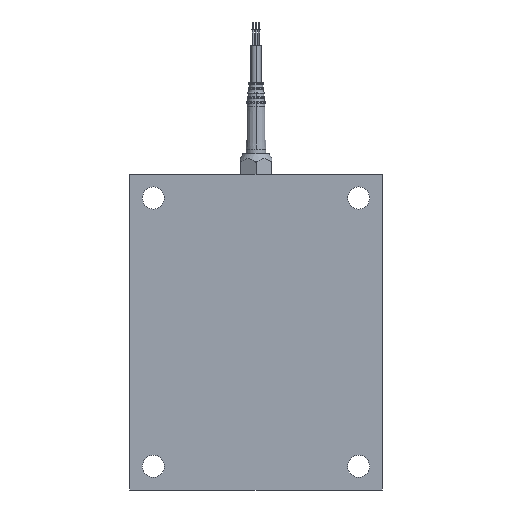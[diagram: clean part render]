
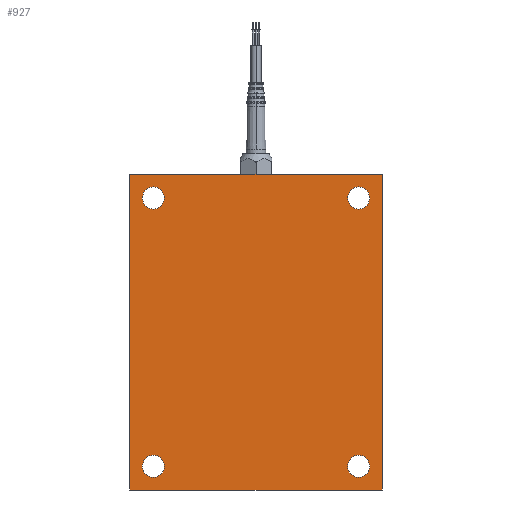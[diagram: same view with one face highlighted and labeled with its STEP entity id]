
A CAD part, front view. The second image highlights one B-rep face of the part: STEP entity #927.
In plain terms, the highlighted planar face has unit normal (0, -1, 0).
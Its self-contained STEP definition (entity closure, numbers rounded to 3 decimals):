
#55 = EDGE_CURVE ( 'NONE', #8232, #11039, #2668, .T. ) ;
#159 = ORIENTED_EDGE ( 'NONE', *, *, #9657, .T. ) ;
#221 = FACE_BOUND ( 'NONE', #9860, .T. ) ;
#266 = AXIS2_PLACEMENT_3D ( 'NONE', #4777, #8554, #3755 ) ;
#305 = AXIS2_PLACEMENT_3D ( 'NONE', #4443, #9071, #8200 ) ;
#764 = DIRECTION ( 'NONE',  ( 0., 1., 0. ) ) ;
#927 = ADVANCED_FACE ( 'NONE', ( #221, #3869, #6623, #3111, #11350 ), #8537, .T. ) ;
#1111 = VECTOR ( 'NONE', #8660, 1000. ) ;
#1147 = CIRCLE ( 'NONE', #8027, 7. ) ;
#1205 = DIRECTION ( 'NONE',  ( 0., 0., 1. ) ) ;
#1404 = VERTEX_POINT ( 'NONE', #11454 ) ;
#1621 = CIRCLE ( 'NONE', #9508, 7. ) ;
#1745 = DIRECTION ( 'NONE',  ( 0., 0., 1. ) ) ;
#1806 = AXIS2_PLACEMENT_3D ( 'NONE', #2016, #11424, #6003 ) ;
#1829 = CIRCLE ( 'NONE', #266, 7. ) ;
#1930 = ORIENTED_EDGE ( 'NONE', *, *, #8910, .F. ) ;
#1945 = DIRECTION ( 'NONE',  ( 0., 0., -1. ) ) ;
#1972 = CARTESIAN_POINT ( 'NONE',  ( -85., 0., -72. ) ) ;
#2016 = CARTESIAN_POINT ( 'NONE',  ( 85., 0., 65. ) ) ;
#2017 = CIRCLE ( 'NONE', #8098, 7. ) ;
#2086 = DIRECTION ( 'NONE',  ( 0., 0., 1. ) ) ;
#2130 = LINE ( 'NONE', #5741, #1111 ) ;
#2198 = DIRECTION ( 'NONE',  ( 0., 1., 0. ) ) ;
#2382 = EDGE_CURVE ( 'NONE', #2926, #6661, #3059, .T. ) ;
#2392 = CARTESIAN_POINT ( 'NONE',  ( 100., 0., 80. ) ) ;
#2559 = ORIENTED_EDGE ( 'NONE', *, *, #5392, .T. ) ;
#2636 = LINE ( 'NONE', #6392, #8180 ) ;
#2668 = CIRCLE ( 'NONE', #2705, 7. ) ;
#2705 = AXIS2_PLACEMENT_3D ( 'NONE', #10609, #4036, #7542 ) ;
#2869 = CARTESIAN_POINT ( 'NONE',  ( 85., 0., -58. ) ) ;
#2888 = EDGE_CURVE ( 'NONE', #6661, #2926, #2017, .T. ) ;
#2926 = VERTEX_POINT ( 'NONE', #1972 ) ;
#2939 = VERTEX_POINT ( 'NONE', #6706 ) ;
#3059 = CIRCLE ( 'NONE', #305, 7. ) ;
#3111 = FACE_BOUND ( 'NONE', #6978, .T. ) ;
#3195 = VERTEX_POINT ( 'NONE', #10082 ) ;
#3227 = AXIS2_PLACEMENT_3D ( 'NONE', #9589, #10378, #1945 ) ;
#3477 = CARTESIAN_POINT ( 'NONE',  ( -85., 0., 65. ) ) ;
#3521 = ORIENTED_EDGE ( 'NONE', *, *, #9042, .F. ) ;
#3755 = DIRECTION ( 'NONE',  ( 0., 0., 1. ) ) ;
#3841 = EDGE_LOOP ( 'NONE', ( #159, #5229 ) ) ;
#3869 = FACE_OUTER_BOUND ( 'NONE', #7684, .T. ) ;
#4036 = DIRECTION ( 'NONE',  ( 0., 1., 0. ) ) ;
#4118 = LINE ( 'NONE', #6694, #12096 ) ;
#4443 = CARTESIAN_POINT ( 'NONE',  ( -85., 0., -65. ) ) ;
#4597 = DIRECTION ( 'NONE',  ( 0., 0., -1. ) ) ;
#4644 = CARTESIAN_POINT ( 'NONE',  ( -85., 0., -58. ) ) ;
#4777 = CARTESIAN_POINT ( 'NONE',  ( 85., 0., 65. ) ) ;
#4950 = ORIENTED_EDGE ( 'NONE', *, *, #2382, .T. ) ;
#5215 = VECTOR ( 'NONE', #6686, 1000. ) ;
#5229 = ORIENTED_EDGE ( 'NONE', *, *, #7604, .T. ) ;
#5392 = EDGE_CURVE ( 'NONE', #11039, #8232, #1147, .T. ) ;
#5735 = DIRECTION ( 'NONE',  ( 0., 1., 0. ) ) ;
#5741 = CARTESIAN_POINT ( 'NONE',  ( -100., 0., -80. ) ) ;
#6003 = DIRECTION ( 'NONE',  ( 0., 0., 1. ) ) ;
#6165 = AXIS2_PLACEMENT_3D ( 'NONE', #3477, #764, #1745 ) ;
#6264 = EDGE_CURVE ( 'NONE', #10567, #3195, #1829, .T. ) ;
#6392 = CARTESIAN_POINT ( 'NONE',  ( 100., 0., 80. ) ) ;
#6597 = CARTESIAN_POINT ( 'NONE',  ( 85., 0., -72. ) ) ;
#6623 = FACE_BOUND ( 'NONE', #3841, .T. ) ;
#6627 = LINE ( 'NONE', #10384, #5215 ) ;
#6661 = VERTEX_POINT ( 'NONE', #4644 ) ;
#6686 = DIRECTION ( 'NONE',  ( 1., 0., 0. ) ) ;
#6694 = CARTESIAN_POINT ( 'NONE',  ( -100., 0., 80. ) ) ;
#6706 = CARTESIAN_POINT ( 'NONE',  ( -100., 0., -80. ) ) ;
#6787 = ORIENTED_EDGE ( 'NONE', *, *, #55, .T. ) ;
#6940 = CARTESIAN_POINT ( 'NONE',  ( -85., 0., 65. ) ) ;
#6978 = EDGE_LOOP ( 'NONE', ( #8394, #7982 ) ) ;
#7101 = CIRCLE ( 'NONE', #1806, 7. ) ;
#7150 = VERTEX_POINT ( 'NONE', #7423 ) ;
#7318 = VERTEX_POINT ( 'NONE', #2392 ) ;
#7417 = VERTEX_POINT ( 'NONE', #9295 ) ;
#7423 = CARTESIAN_POINT ( 'NONE',  ( -100., 0., 80. ) ) ;
#7542 = DIRECTION ( 'NONE',  ( 0., 0., 1. ) ) ;
#7547 = CIRCLE ( 'NONE', #6165, 7. ) ;
#7564 = DIRECTION ( 'NONE',  ( 0., 1., 0. ) ) ;
#7604 = EDGE_CURVE ( 'NONE', #1404, #11086, #1621, .T. ) ;
#7629 = CARTESIAN_POINT ( 'NONE',  ( -85., 0., -65. ) ) ;
#7684 = EDGE_LOOP ( 'NONE', ( #3521, #8466, #1930, #10511 ) ) ;
#7961 = DIRECTION ( 'NONE',  ( 0., 0., 1. ) ) ;
#7982 = ORIENTED_EDGE ( 'NONE', *, *, #6264, .T. ) ;
#8027 = AXIS2_PLACEMENT_3D ( 'NONE', #10429, #5735, #7961 ) ;
#8098 = AXIS2_PLACEMENT_3D ( 'NONE', #7629, #7564, #10403 ) ;
#8180 = VECTOR ( 'NONE', #4597, 1000. ) ;
#8200 = DIRECTION ( 'NONE',  ( 0., 0., 1. ) ) ;
#8232 = VERTEX_POINT ( 'NONE', #2869 ) ;
#8394 = ORIENTED_EDGE ( 'NONE', *, *, #9934, .T. ) ;
#8466 = ORIENTED_EDGE ( 'NONE', *, *, #9406, .F. ) ;
#8537 = PLANE ( 'NONE',  #3227 ) ;
#8554 = DIRECTION ( 'NONE',  ( 0., 1., 0. ) ) ;
#8660 = DIRECTION ( 'NONE',  ( -1., 0., 0. ) ) ;
#8910 = EDGE_CURVE ( 'NONE', #7318, #7417, #2636, .T. ) ;
#9042 = EDGE_CURVE ( 'NONE', #2939, #7150, #4118, .T. ) ;
#9071 = DIRECTION ( 'NONE',  ( 0., 1., 0. ) ) ;
#9142 = CARTESIAN_POINT ( 'NONE',  ( 85., 0., 58. ) ) ;
#9295 = CARTESIAN_POINT ( 'NONE',  ( 100., 0., -80. ) ) ;
#9406 = EDGE_CURVE ( 'NONE', #7417, #2939, #2130, .T. ) ;
#9420 = EDGE_CURVE ( 'NONE', #7150, #7318, #6627, .T. ) ;
#9508 = AXIS2_PLACEMENT_3D ( 'NONE', #6940, #2198, #2086 ) ;
#9589 = CARTESIAN_POINT ( 'NONE',  ( 0., 0., 0. ) ) ;
#9657 = EDGE_CURVE ( 'NONE', #11086, #1404, #7547, .T. ) ;
#9779 = ORIENTED_EDGE ( 'NONE', *, *, #2888, .T. ) ;
#9860 = EDGE_LOOP ( 'NONE', ( #9779, #4950 ) ) ;
#9905 = CARTESIAN_POINT ( 'NONE',  ( -85., 0., 72. ) ) ;
#9934 = EDGE_CURVE ( 'NONE', #3195, #10567, #7101, .T. ) ;
#10082 = CARTESIAN_POINT ( 'NONE',  ( 85., 0., 72. ) ) ;
#10378 = DIRECTION ( 'NONE',  ( 0., -1., 0. ) ) ;
#10384 = CARTESIAN_POINT ( 'NONE',  ( -100., 0., 80. ) ) ;
#10403 = DIRECTION ( 'NONE',  ( 0., 0., 1. ) ) ;
#10429 = CARTESIAN_POINT ( 'NONE',  ( 85., 0., -65. ) ) ;
#10511 = ORIENTED_EDGE ( 'NONE', *, *, #9420, .F. ) ;
#10567 = VERTEX_POINT ( 'NONE', #9142 ) ;
#10609 = CARTESIAN_POINT ( 'NONE',  ( 85., 0., -65. ) ) ;
#11039 = VERTEX_POINT ( 'NONE', #6597 ) ;
#11086 = VERTEX_POINT ( 'NONE', #9905 ) ;
#11273 = EDGE_LOOP ( 'NONE', ( #6787, #2559 ) ) ;
#11350 = FACE_BOUND ( 'NONE', #11273, .T. ) ;
#11424 = DIRECTION ( 'NONE',  ( 0., 1., 0. ) ) ;
#11454 = CARTESIAN_POINT ( 'NONE',  ( -85., 0., 58. ) ) ;
#12096 = VECTOR ( 'NONE', #1205, 1000. ) ;
